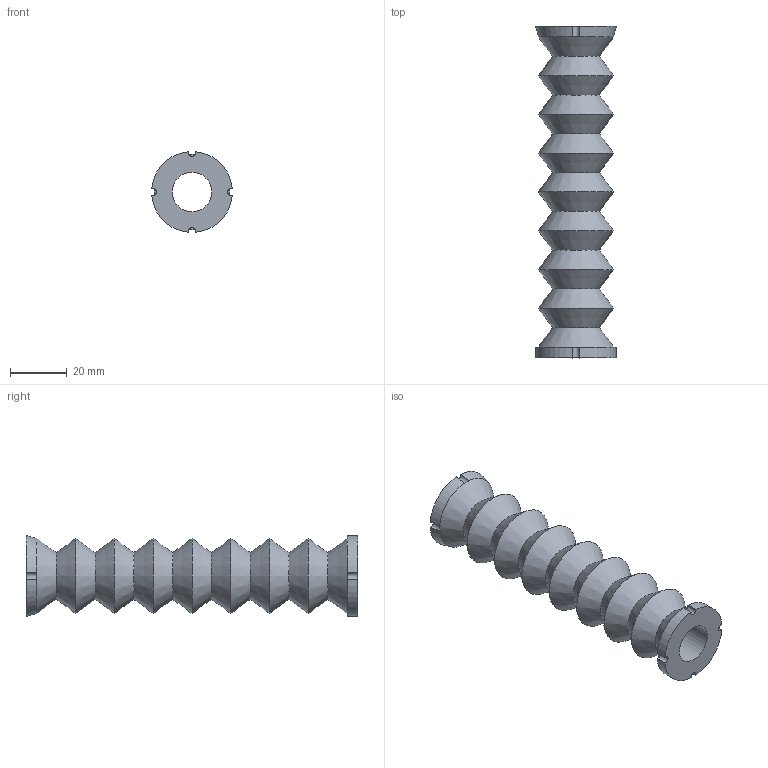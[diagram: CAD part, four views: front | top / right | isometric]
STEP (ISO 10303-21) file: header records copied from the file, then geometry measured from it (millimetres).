
FILE_DESCRIPTION(('Open CASCADE Model'),'2;1');
FILE_NAME('Open CASCADE Shape Model','2026-09-09T00:35:50',('Author'),( 'Open CASCADE'),'Open CASCADE STEP processor 7.7','Open CASCADE 7.7' ,'Unknown');
FILE_SCHEMA(('AUTOMOTIVE_DESIGN { 1 0 10303 214 1 1 1 1 }'));
Length unit declared in the file: millimetre
Products named in the file (1): Open CASCADE STEP translator 7.7 1
Bounding box: 28.35 x 116.74 x 28.35 mm (x, y, z)
Volume: 27343 mm3; surface area: 16028 mm2
Topology: 1 solids, 1 shells, 47 faces, 104 edges, 59 vertices
Faces by surface type: cone 20, plane 14, cylinder 13
Full cylindrical faces by diameter (mm): 13.86 x1
Entity records: 2924 total; most frequent: CARTESIAN_POINT 813, DIRECTION 420, ORIENTED_EDGE 208, PCURVE 208, DEFINITIONAL_REPRESENTATION 208, LINE 149, VECTOR 149, AXIS2_PLACEMENT_3D 119
